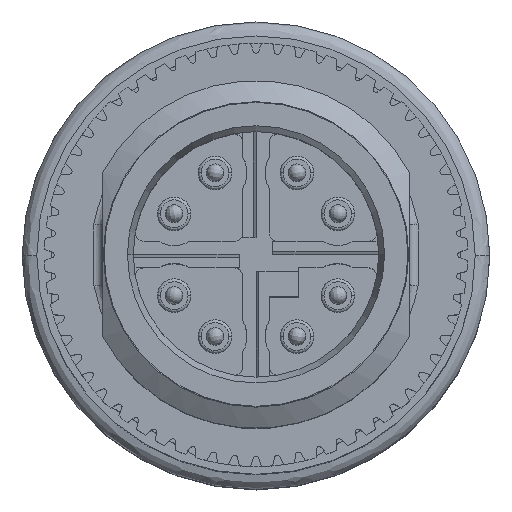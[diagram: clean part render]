
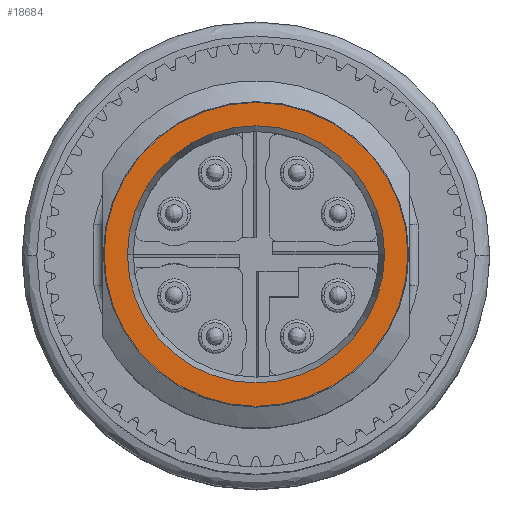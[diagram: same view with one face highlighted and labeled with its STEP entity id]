
A CAD part, top view. The second image highlights one B-rep face of the part: STEP entity #18684.
In plain terms, the highlighted planar face has unit normal (0, 0, 1).
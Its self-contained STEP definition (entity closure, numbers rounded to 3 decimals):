
#529 = AXIS2_PLACEMENT_3D ( 'NONE', #848, #5679, #8924 ) ;
#848 = CARTESIAN_POINT ( 'NONE',  ( 0., 0., 4.15 ) ) ;
#2892 = CARTESIAN_POINT ( 'NONE',  ( 0., 0., 4.15 ) ) ;
#3147 = FACE_BOUND ( 'NONE', #21062, .T. ) ;
#3263 = DIRECTION ( 'NONE',  ( 0., 0., 1. ) ) ;
#3807 = ORIENTED_EDGE ( 'NONE', *, *, #10229, .T. ) ;
#4190 = ORIENTED_EDGE ( 'NONE', *, *, #10162, .T. ) ;
#4689 = AXIS2_PLACEMENT_3D ( 'NONE', #20899, #20695, #12523 ) ;
#5620 = CARTESIAN_POINT ( 'NONE',  ( 4.4, 0., 4.15 ) ) ;
#5679 = DIRECTION ( 'NONE',  ( 0., 0., 1. ) ) ;
#5736 = AXIS2_PLACEMENT_3D ( 'NONE', #17742, #15788, #19377 ) ;
#6012 = EDGE_CURVE ( 'NONE', #6138, #17942, #13290, .T. ) ;
#6138 = VERTEX_POINT ( 'NONE', #5620 ) ;
#7041 = ORIENTED_EDGE ( 'NONE', *, *, #6012, .T. ) ;
#7068 = EDGE_CURVE ( 'NONE', #14012, #11893, #9935, .T. ) ;
#7083 = AXIS2_PLACEMENT_3D ( 'NONE', #20118, #3263, #18253 ) ;
#7107 = ORIENTED_EDGE ( 'NONE', *, *, #7068, .T. ) ;
#7482 = EDGE_LOOP ( 'NONE', ( #3807, #7107 ) ) ;
#7817 = CARTESIAN_POINT ( 'NONE',  ( 5.2, 0., 4.15 ) ) ;
#8924 = DIRECTION ( 'NONE',  ( -1., 0., 0. ) ) ;
#9935 = CIRCLE ( 'NONE', #529, 5.2 ) ;
#10002 = FACE_OUTER_BOUND ( 'NONE', #7482, .T. ) ;
#10162 = EDGE_CURVE ( 'NONE', #17942, #6138, #15073, .T. ) ;
#10229 = EDGE_CURVE ( 'NONE', #11893, #14012, #13352, .T. ) ;
#11893 = VERTEX_POINT ( 'NONE', #14280 ) ;
#12523 = DIRECTION ( 'NONE',  ( -1., 0., 0. ) ) ;
#13290 = CIRCLE ( 'NONE', #15694, 4.4 ) ;
#13352 = CIRCLE ( 'NONE', #4689, 5.2 ) ;
#14012 = VERTEX_POINT ( 'NONE', #7817 ) ;
#14280 = CARTESIAN_POINT ( 'NONE',  ( -5.2, 0., 4.15 ) ) ;
#14526 = CARTESIAN_POINT ( 'NONE',  ( -4.4, 0., 4.15 ) ) ;
#15073 = CIRCLE ( 'NONE', #5736, 4.4 ) ;
#15694 = AXIS2_PLACEMENT_3D ( 'NONE', #2892, #16039, #16152 ) ;
#15788 = DIRECTION ( 'NONE',  ( 0., 0., -1. ) ) ;
#16039 = DIRECTION ( 'NONE',  ( 0., 0., -1. ) ) ;
#16152 = DIRECTION ( 'NONE',  ( 1., 0., 0. ) ) ;
#17742 = CARTESIAN_POINT ( 'NONE',  ( 0., 0., 4.15 ) ) ;
#17942 = VERTEX_POINT ( 'NONE', #14526 ) ;
#17943 = PLANE ( 'NONE',  #7083 ) ;
#18253 = DIRECTION ( 'NONE',  ( 1., 0., 0. ) ) ;
#18684 = ADVANCED_FACE ( 'NONE', ( #3147, #10002 ), #17943, .T. ) ;
#19377 = DIRECTION ( 'NONE',  ( 1., 0., 0. ) ) ;
#20118 = CARTESIAN_POINT ( 'NONE',  ( 0., 4.2, 4.15 ) ) ;
#20695 = DIRECTION ( 'NONE',  ( 0., 0., 1. ) ) ;
#20899 = CARTESIAN_POINT ( 'NONE',  ( 0., 0., 4.15 ) ) ;
#21062 = EDGE_LOOP ( 'NONE', ( #7041, #4190 ) ) ;
